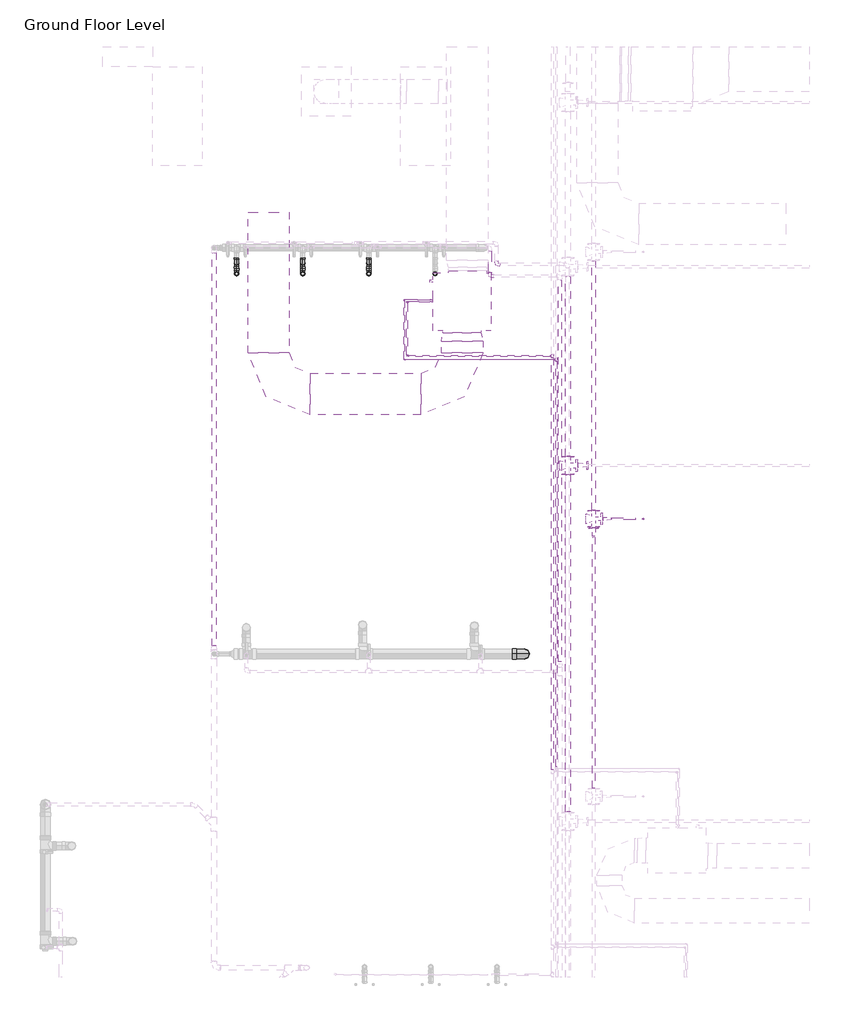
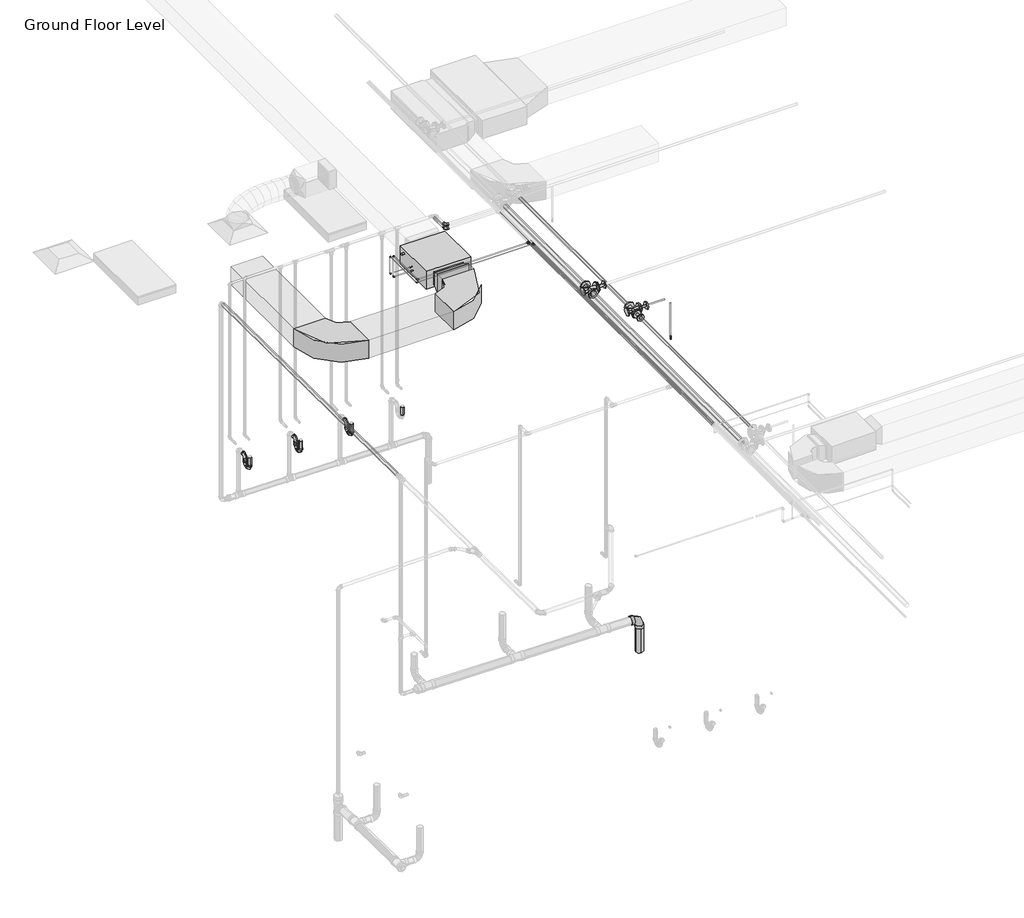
# One storey, part 21 of 74: 30 pipe segments, 27 pipe fittings, 3 duct fittings, 3 duct segments, 1 fire suppression terminal, 1 proxy.
"""IFC4 building model written with IfcOpenShell, lengths in millimetres."""

from ifc_helpers import new_model, si_unit, point, frame, frame_2d, origin, place, context, project, spatial, polyline, circle_curve, trimmed, segment, composite_curve, outline, extrude, transform, mapped, element, save
from components import fcu_daikin_iu_bad131e0, m_rectangular_elbow_radius_1_w_abe20169, m_rectangular_transition_angle_45_degree_f7c2916c, m_sprinkler_pendent_15_mm_pendent_06fcbd8e, m_bend_pvc_sch_40_dwv_standard_b7b4a97e, m_bend_pvc_sch_40_dwv_standard_1e7bdcc1, m_bend_pvc_sch_40_dwv_standard_776e50c4, m_elbow_generic_standard_a088f956, m_elbow_generic_standard_2a704253, m_reducer_flanged_cs_class_150_standard_b6b67c23, m_reducer_flanged_cs_class_150_standard_cc2a7c1d, m_reducer_flanged_cs_class_150_standard_a7631c35, m_tee_generic_standard_5b2ed4d4, m_tee_generic_standard_5078887e, m_tee_round_base_flanged_cs_class_150_standard_dd767e04, m_tee_round_base_flanged_cs_class_150_standard_9c9133d0, m_transition_generic_standard_bdcfe2c1, m_transition_generic_standard_44e35838, standard_517a5a8d

model = new_model("IFC4")

# Units and contexts
model_context = context("Model", 3, world=origin())
ifc_project = project(units=[si_unit("LENGTHUNIT", "METRE", prefix="MILLI")], contexts=[model_context])

# Site, building, storey
site = spatial("IfcSite", under=ifc_project)
building = spatial("IfcBuilding", under=site)
storey = spatial("IfcBuildingStorey", under=building, Name="Ground Floor Level", Elevation=900.0)

# Proxy
placement = place(None, origin())
fcu_daikin_iu_shape = fcu_daikin_iu_bad131e0(model_context)
element("IfcBuildingElementProxy", 1, Name="FCU-DAIKIN IU : 4.5kW, 230V/50Hz/1Ph", ObjectType="FCU-DAIKIN IU : 4.5kW, 230V/50Hz/1Ph", at=placement, inside=storey, context=model_context, shape_type="MappedRepresentation", body=[
    mapped(fcu_daikin_iu_shape, transform((4405.6581832, -24507.2627051, 3934.1054453), x_axis=(-1.0, 0.0, 0.0), y_axis=(0.0, -1.0, 0.0), z_axis=(0.0, 0.0, 1.0))),
])

# Duct fittings
m_rectangular_elbow_radius_1_w_shape = m_rectangular_elbow_radius_1_w_abe20169(model_context)
element("IfcDuctFitting", 2, ObjectType="M_Rectangular Elbow - Radius : 1 W", at=placement, inside=storey, context=model_context, shape_type="MappedRepresentation", body=[
    mapped(m_rectangular_elbow_radius_1_w_shape, transform((4405.6581832, -25622.6440715, 4075.3054453), x_axis=(1.0, 0.0, 0.0), y_axis=(0.0, 1.0, 0.0), z_axis=(0.0, 0.0, 1.0))),
])
element("IfcDuctFitting", 3, ObjectType="M_Rectangular Elbow - Radius : 1 W", at=placement, inside=storey, context=model_context, shape_type="MappedRepresentation", body=[
    mapped(m_rectangular_elbow_radius_1_w_shape, transform((2065.6581888, -25622.6440715, 4075.2875), x_axis=(0.0, -1.0, 0.0), y_axis=(1.0, 0.0, 0.0), z_axis=(0.0, 0.0, 1.0))),
])
m_rectangular_transition_angle_45_degree_shape = m_rectangular_transition_angle_45_degree_f7c2916c(model_context)
element("IfcDuctFitting", 4, ObjectType="M_Rectangular Transition - Angle : 45 Degree", at=placement, inside=storey, context=model_context, shape_type="MappedRepresentation", body=[
    mapped(m_rectangular_transition_angle_45_degree_shape, transform((4405.6581832, -24882.6627051, 4075.3054453), x_axis=(0.0, -1.0, 0.0), y_axis=(1.0, 0.0, 0.0), z_axis=(0.0, 0.0, 1.0))),
])

# Duct segments
element("IfcDuctSegment", 5, ObjectType="Radius Elbows / Taps", at=placement, inside=storey, context=model_context, shape_type="SweptSolid", body=[
    extrude(outline(polyline([(4155.6581832, -24986.1117562), (4655.6581832, -24986.1117562), (4655.6581832, -25122.6440715), (4155.6581832, -25122.6440715), (4155.6581832, -24986.1117562)])), frame((0.0, 0.0, 3925.3054453), z_axis=(0.0, 0.0, 1.0), x_axis=(1.0, 0.0, 0.0)), (0.0, 0.0, 1.0), 300.0),
])
element("IfcDuctSegment", 6, ObjectType="Radius Elbows / Taps", at=placement, inside=storey, context=model_context, shape_type="SweptSolid", body=[
    extrude(outline(polyline([(0.0, -500.0), (0.0, 0.0), (1339.9999945, 0.0), (1339.9999945, -500.0), (0.0, -500.0)])), frame((3905.660192, -25872.6440715, 3925.3054453), z_axis=(-1.3392036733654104e-05, 0.0, 0.9999999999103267), x_axis=(-0.9999999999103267, 0.0, -1.3392036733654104e-05)), (0.0, 0.0, 1.0), 300.0),
])
element("IfcDuctSegment", 7, ObjectType="Radius Elbows / Taps", at=placement, inside=storey, context=model_context, shape_type="SweptSolid", body=[
    extrude(outline(polyline([(2315.6581888, -25122.6440715), (1815.6581888, -25122.6440715), (1815.6581888, -23422.6440715), (2315.6581888, -23422.6440715), (2315.6581888, -25122.6440715)])), frame((0.0, 0.0, 3925.2875), z_axis=(0.0, 0.0, 1.0), x_axis=(1.0, 0.0, 0.0)), (0.0, 0.0, 1.0), 300.0),
])

# Fire suppression terminal
m_sprinkler_pendent_15_mm_pendent_shape = m_sprinkler_pendent_15_mm_pendent_06fcbd8e(model_context)
element("IfcFireSuppressionTerminal", 8, ObjectType="M_Sprinkler - Pendent : 15 mm Pendent", at=placement, inside=storey, context=model_context, shape_type="MappedRepresentation", body=[
    mapped(m_sprinkler_pendent_15_mm_pendent_shape, transform((6592.5481019, -27129.3982359, 3650.0), x_axis=(1.0, 0.0, 0.0), y_axis=(0.0, 1.0, 0.0), z_axis=(0.0, 0.0, 1.0))),
])

# Pipe fittings
m_bend_pvc_sch_40_dwv_standard_shape = m_bend_pvc_sch_40_dwv_standard_b7b4a97e(model_context)
element("IfcPipeFitting", 9, ObjectType="M_Bend - PVC - Sch 40 - DWV : Standard", at=placement, inside=storey, context=model_context, shape_type="MappedRepresentation", body=[
    mapped(m_bend_pvc_sch_40_dwv_standard_shape, transform((5158.4803359, -28761.5689421, 448.4416158), x_axis=(0.9999500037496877, 0.0, -0.00999950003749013), y_axis=(-0.00999950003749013, 0.0, -0.9999500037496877), z_axis=(0.0, 1.0, 0.0))),
])
m_bend_pvc_sch_40_dwv_standard_2_shape = m_bend_pvc_sch_40_dwv_standard_1e7bdcc1(model_context)
element("IfcPipeFitting", 10, ObjectType="M_Bend - PVC - Sch 40 - DWV : Standard", at=placement, inside=storey, context=model_context, shape_type="MappedRepresentation", body=[
    mapped(m_bend_pvc_sch_40_dwv_standard_2_shape, transform((1679.14976, -24168.3528577, 1360.0000049), x_axis=(0.0, 0.0, -1.0), y_axis=(0.0, 1.0, 0.0), z_axis=(1.0, 0.0, 0.0))),
])
element("IfcPipeFitting", 11, ObjectType="M_Bend - PVC - Sch 40 - DWV : Standard", at=placement, inside=storey, context=model_context, shape_type="MappedRepresentation", body=[
    mapped(m_bend_pvc_sch_40_dwv_standard_2_shape, transform((2479.14976, -24168.3528577, 1360.00001), x_axis=(0.0, -0.9999500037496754, 0.009999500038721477), y_axis=(0.0, 0.009999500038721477, 0.9999500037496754), z_axis=(-1.0, 0.0, 0.0))),
])
element("IfcPipeFitting", 12, ObjectType="M_Bend - PVC - Sch 40 - DWV : Standard", at=placement, inside=storey, context=model_context, shape_type="MappedRepresentation", body=[
    mapped(m_bend_pvc_sch_40_dwv_standard_2_shape, transform((3279.14976, -24168.3528577, 1360.0000049), x_axis=(0.0, -0.9999500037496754, 0.009999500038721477), y_axis=(0.0, 0.009999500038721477, 0.9999500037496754), z_axis=(-1.0, 0.0, 0.0))),
])
m_bend_pvc_sch_40_dwv_standard_3_shape = m_bend_pvc_sch_40_dwv_standard_776e50c4(model_context)
element("IfcPipeFitting", 13, ObjectType="M_Bend - PVC - Sch 40 - DWV : Standard", at=placement, inside=storey, context=model_context, shape_type="MappedRepresentation", body=[
    mapped(m_bend_pvc_sch_40_dwv_standard_3_shape, transform((1679.14976, -24038.3523645, 1358.7), x_axis=(0.0, 0.9999500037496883, -0.009999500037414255), y_axis=(0.0, 0.009999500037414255, 0.9999500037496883), z_axis=(1.0, 0.0, 0.0))),
])
element("IfcPipeFitting", 14, ObjectType="M_Bend - PVC - Sch 40 - DWV : Standard", at=placement, inside=storey, context=model_context, shape_type="MappedRepresentation", body=[
    mapped(m_bend_pvc_sch_40_dwv_standard_3_shape, transform((1679.14976, -24038.3523645, 1510.0493267), x_axis=(0.0, 0.0, 1.0), y_axis=(0.0, 1.0, 0.0), z_axis=(-1.0, 0.0, 0.0))),
])
element("IfcPipeFitting", 15, ObjectType="M_Bend - PVC - Sch 40 - DWV : Standard", at=placement, inside=storey, context=model_context, shape_type="MappedRepresentation", body=[
    mapped(m_bend_pvc_sch_40_dwv_standard_3_shape, transform((2479.14976, -24038.3518579, 1358.7), x_axis=(0.0, 0.9999500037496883, -0.009999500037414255), y_axis=(0.0, 0.009999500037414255, 0.9999500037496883), z_axis=(1.0, 0.0, 0.0))),
])
element("IfcPipeFitting", 16, ObjectType="M_Bend - PVC - Sch 40 - DWV : Standard", at=placement, inside=storey, context=model_context, shape_type="MappedRepresentation", body=[
    mapped(m_bend_pvc_sch_40_dwv_standard_3_shape, transform((2479.14976, -24038.3518579, 1510.09999), x_axis=(0.0, 0.0, 1.0), y_axis=(0.0, 1.0, 0.0), z_axis=(-1.0, 0.0, 0.0))),
])
element("IfcPipeFitting", 17, ObjectType="M_Bend - PVC - Sch 40 - DWV : Standard", at=placement, inside=storey, context=model_context, shape_type="MappedRepresentation", body=[
    mapped(m_bend_pvc_sch_40_dwv_standard_3_shape, transform((3279.14976, -24038.3523645, 1358.7), x_axis=(0.0, 0.9999500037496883, -0.009999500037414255), y_axis=(0.0, 0.009999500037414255, 0.9999500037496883), z_axis=(1.0, 0.0, 0.0))),
])
element("IfcPipeFitting", 18, ObjectType="M_Bend - PVC - Sch 40 - DWV : Standard", at=placement, inside=storey, context=model_context, shape_type="MappedRepresentation", body=[
    mapped(m_bend_pvc_sch_40_dwv_standard_3_shape, transform((3279.14976, -24038.3523645, 1510.0493267), x_axis=(0.0, 0.0, 1.0), y_axis=(0.0, 1.0, 0.0), z_axis=(-1.0, 0.0, 0.0))),
])
m_elbow_generic_standard_shape = m_elbow_generic_standard_a088f956(model_context)
element("IfcPipeFitting", 19, ObjectType="M_Elbow - Generic : Standard", at=placement, inside=storey, context=model_context, shape_type="MappedRepresentation", body=[
    mapped(m_elbow_generic_standard_shape, transform((3741.7995393, -24507.2440715, 4034.0875), x_axis=(-1.0, 0.0, 0.0), y_axis=(0.0, 0.0, 1.0), z_axis=(0.0, 1.0, 0.0))),
])
element("IfcPipeFitting", 20, ObjectType="M_Elbow - Generic : Standard", at=placement, inside=storey, context=model_context, shape_type="MappedRepresentation", body=[
    mapped(m_elbow_generic_standard_shape, transform((3741.7995393, -24507.2440715, 4390.0), x_axis=(0.0, 0.0, 1.0), y_axis=(0.0, -1.0, 0.0), z_axis=(1.0, 0.0, 0.0))),
])
element("IfcPipeFitting", 21, ObjectType="M_Elbow - Generic : Standard", at=placement, inside=storey, context=model_context, shape_type="MappedRepresentation", body=[
    mapped(m_elbow_generic_standard_shape, transform((3741.7995393, -25162.0896488, 4390.0), x_axis=(0.0, -1.0, 0.0), y_axis=(1.0, 0.0, 0.0), z_axis=(0.0, 0.0, 1.0))),
])
m_elbow_generic_standard_2_shape = m_elbow_generic_standard_2a704253(model_context)
element("IfcPipeFitting", 22, ObjectType="M_Elbow - Generic : Standard", at=placement, inside=storey, context=model_context, shape_type="MappedRepresentation", body=[
    mapped(m_elbow_generic_standard_2_shape, transform((3705.4496688, -24482.2440715, 4084.8875), x_axis=(-1.0, 0.0, 0.0), y_axis=(0.0, 0.0, 1.0), z_axis=(0.0, 1.0, 0.0))),
])
element("IfcPipeFitting", 23, ObjectType="M_Elbow - Generic : Standard", at=placement, inside=storey, context=model_context, shape_type="MappedRepresentation", body=[
    mapped(m_elbow_generic_standard_2_shape, transform((3705.4496688, -24482.2440715, 4377.5), x_axis=(0.0, 0.0, 1.0), y_axis=(0.0, -1.0, 0.0), z_axis=(1.0, 0.0, 0.0))),
])
element("IfcPipeFitting", 24, ObjectType="M_Elbow - Generic : Standard", at=placement, inside=storey, context=model_context, shape_type="MappedRepresentation", body=[
    mapped(m_elbow_generic_standard_2_shape, transform((3705.4496688, -25206.4899508, 4377.5), x_axis=(0.0, -1.0, 0.0), y_axis=(1.0, 0.0, 0.0), z_axis=(0.0, 0.0, 1.0))),
])
m_reducer_flanged_cs_class_150_standard_shape = m_reducer_flanged_cs_class_150_standard_b6b67c23(model_context)
element("IfcPipeFitting", 25, ObjectType="M_Reducer - Flanged - CS - Class 150 : Standard", at=placement, inside=storey, context=model_context, shape_type="MappedRepresentation", body=[
    mapped(m_reducer_flanged_cs_class_150_standard_shape, transform((5997.057812, -27235.4968297, 4290.0), x_axis=(0.0, -1.0, 0.0), y_axis=(1.0, 0.0, 0.0), z_axis=(0.0, 0.0, 1.0))),
])
m_reducer_flanged_cs_class_150_standard_2_shape = m_reducer_flanged_cs_class_150_standard_cc2a7c1d(model_context)
element("IfcPipeFitting", 26, ObjectType="M_Reducer - Flanged - CS - Class 150 : Standard", at=placement, inside=storey, context=model_context, shape_type="MappedRepresentation", body=[
    mapped(m_reducer_flanged_cs_class_150_standard_2_shape, transform((6103.1564057, -27129.3982359, 4290.0), x_axis=(1.0, 0.0, 0.0), y_axis=(0.0, 0.0, -1.0), z_axis=(0.0, 1.0, 0.0))),
])
m_reducer_flanged_cs_class_150_standard_3_shape = m_reducer_flanged_cs_class_150_standard_a7631c35(model_context)
element("IfcPipeFitting", 27, ObjectType="M_Reducer - Flanged - CS - Class 150 : Standard", at=placement, inside=storey, context=model_context, shape_type="MappedRepresentation", body=[
    mapped(m_reducer_flanged_cs_class_150_standard_3_shape, transform((5798.6174894, -26484.6295433, 4347.5), x_axis=(1.0, 0.0, 0.0), y_axis=(0.0, 0.0, 1.0), z_axis=(0.0, -1.0, 0.0))),
])
m_tee_generic_standard_shape = m_tee_generic_standard_5b2ed4d4(model_context)
element("IfcPipeFitting", 28, ObjectType="M_Tee - Generic : Standard", at=placement, inside=storey, context=model_context, shape_type="MappedRepresentation", body=[
    mapped(m_tee_generic_standard_shape, transform((5543.9904113, -25206.4899508, 4377.5), x_axis=(0.0, -1.0, 0.0), y_axis=(1.0, 0.0, 0.0), z_axis=(0.0, 0.0, 1.0))),
])
m_tee_generic_standard_2_shape = m_tee_generic_standard_5078887e(model_context)
element("IfcPipeFitting", 29, ObjectType="M_Tee - Generic : Standard", at=placement, inside=storey, context=model_context, shape_type="MappedRepresentation", body=[
    mapped(m_tee_generic_standard_2_shape, transform((5497.8951827, -25162.0896488, 4390.0), x_axis=(0.0, -1.0, 0.0), y_axis=(1.0, 0.0, 0.0), z_axis=(0.0, 0.0, 1.0))),
])
m_tee_round_base_flanged_cs_class_150_standard_shape = m_tee_round_base_flanged_cs_class_150_standard_dd767e04(model_context)
element("IfcPipeFitting", 30, ObjectType="M_Tee Round Base - Flanged - CS - Class 150 : Standard", at=placement, inside=storey, context=model_context, shape_type="MappedRepresentation", body=[
    mapped(m_tee_round_base_flanged_cs_class_150_standard_shape, transform((5684.6174894, -26484.6295433, 4347.5), x_axis=(0.0, -1.0, 0.0), y_axis=(-1.0, 0.0, 0.0), z_axis=(0.0, 0.0, -1.0))),
])
m_tee_round_base_flanged_cs_class_150_standard_2_shape = m_tee_round_base_flanged_cs_class_150_standard_9c9133d0(model_context)
element("IfcPipeFitting", 31, ObjectType="M_Tee Round Base - Flanged - CS - Class 150 : Standard", at=placement, inside=storey, context=model_context, shape_type="MappedRepresentation", body=[
    mapped(m_tee_round_base_flanged_cs_class_150_standard_2_shape, transform((5997.057812, -27129.3982359, 4290.0), x_axis=(0.0, 1.0, 0.0), y_axis=(-1.0, 0.0, 0.0), z_axis=(0.0, 0.0, 1.0))),
])
m_transition_generic_standard_shape = m_transition_generic_standard_bdcfe2c1(model_context)
element("IfcPipeFitting", 32, ObjectType="M_Transition - Generic : Standard", at=placement, inside=storey, context=model_context, shape_type="MappedRepresentation", body=[
    mapped(m_transition_generic_standard_shape, transform((5523.3529113, -25206.4899508, 4377.5), x_axis=(-1.0, 0.0, 0.0), y_axis=(0.0, -1.0, 0.0), z_axis=(0.0, 0.0, 1.0))),
])
m_transition_generic_standard_2_shape = m_transition_generic_standard_44e35838(model_context)
element("IfcPipeFitting", 33, ObjectType="M_Transition - Generic : Standard", at=placement, inside=storey, context=model_context, shape_type="MappedRepresentation", body=[
    mapped(m_transition_generic_standard_2_shape, transform((5474.0826827, -25162.0896488, 4390.0), x_axis=(-1.0, 0.0, 0.0), y_axis=(0.0, -1.0, 0.0), z_axis=(0.0, 0.0, 1.0))),
])
standard_shape = standard_517a5a8d(model_context)
element("IfcPipeFitting", 34, ObjectType="M_Elbow - CPVC - Sch 40 : Standard", at=placement, inside=storey, context=model_context, shape_type="MappedRepresentation", body=[
    mapped(standard_shape, transform((4743.0647206, -24195.7825432, 4300.0), x_axis=(0.0, -1.0, 0.0), y_axis=(1.0, 0.0, 0.0), z_axis=(0.0, 0.0, 1.0))),
])
element("IfcPipeFitting", 35, ObjectType="M_Elbow - CPVC - Sch 40 : Standard", at=placement, inside=storey, context=model_context, shape_type="MappedRepresentation", body=[
    mapped(standard_shape, transform((4820.5575802, -24054.921633, 4250.0), x_axis=(0.0, -1.0, 0.0), y_axis=(1.0, 0.0, 0.0), z_axis=(0.0, 0.0, 1.0))),
])

# Pipe segments
element("IfcPipeSegment", 36, ObjectType="CPVC", at=placement, inside=storey, context=model_context, shape_type="SweptSolid", body=[
    extrude(outline(composite_curve([segment(trimmed(circle_curve(frame_2d((4300.0, 4743.0647206)), 16.7005), [point((4300.0, 4726.3642206))], [point((4283.2995, 4743.0647206))], False, "CARTESIAN"), True, "CONTINUOUS"), segment(trimmed(circle_curve(frame_2d((4300.0, 4743.0647206)), 16.7005), [point((4283.2995, 4743.0647206))], [point((4300.0, 4759.7652206))], False, "CARTESIAN"), True, "CONTINUOUS"), segment(trimmed(circle_curve(frame_2d((4300.0, 4743.0647206)), 16.7005), [point((4300.0, 4759.7652206))], [point((4316.7005, 4743.0647206))], False, "CARTESIAN"), True, "CONTINUOUS"), segment(trimmed(circle_curve(frame_2d((4300.0, 4743.0647206)), 16.7005), [point((4316.7005, 4743.0647206))], [point((4300.0, 4726.3642206))], False, "CARTESIAN"), True, "CONTINUOUS")], self_intersect=False)), frame((0.0, -24152.5199932, 0.0), z_axis=(0.0, 1.0, 0.0), x_axis=(0.0, 0.0, 1.0)), (0.0, 0.0, 1.0), 264.4727966),
])
element("IfcPipeSegment", 37, ObjectType="CPVC", at=placement, inside=storey, context=model_context, shape_type="SweptSolid", body=[
    extrude(outline(composite_curve([segment(trimmed(circle_curve(frame_2d((4300.0, 5589.646628)), 16.7005), [point((4300.0, 5572.946128))], [point((4283.2995, 5589.646628))], False, "CARTESIAN"), True, "CONTINUOUS"), segment(trimmed(circle_curve(frame_2d((4300.0, 5589.646628)), 16.7005), [point((4283.2995, 5589.646628))], [point((4300.0, 5606.347128))], False, "CARTESIAN"), True, "CONTINUOUS"), segment(trimmed(circle_curve(frame_2d((4300.0, 5589.646628)), 16.7005), [point((4300.0, 5606.347128))], [point((4316.7005, 5589.646628))], False, "CARTESIAN"), True, "CONTINUOUS"), segment(trimmed(circle_curve(frame_2d((4300.0, 5589.646628)), 16.7005), [point((4316.7005, 5589.646628))], [point((4300.0, 5572.946128))], False, "CARTESIAN"), True, "CONTINUOUS")], self_intersect=False)), frame((0.0, -28854.6907716, 0.0), z_axis=(0.0, 1.0, 0.0), x_axis=(0.0, 0.0, 1.0)), (0.0, 0.0, 1.0), 4615.6456784),
])
element("IfcPipeSegment", 38, ObjectType="Copper", at=placement, inside=storey, context=model_context, shape_type="SweptSolid", body=[
    extrude(outline(composite_curve([segment(trimmed(circle_curve(frame_2d((-25206.4899508, 4377.5)), 3.35), [point((-25209.8399508, 4377.5))], [point((-25206.4899508, 4380.85))], False, "CARTESIAN"), True, "CONTINUOUS"), segment(trimmed(circle_curve(frame_2d((-25206.4899508, 4377.5)), 3.35), [point((-25206.4899508, 4380.85))], [point((-25203.1399508, 4377.5))], False, "CARTESIAN"), True, "CONTINUOUS"), segment(trimmed(circle_curve(frame_2d((-25206.4899508, 4377.5)), 3.35), [point((-25203.1399508, 4377.5))], [point((-25206.4899508, 4374.15))], False, "CARTESIAN"), True, "CONTINUOUS"), segment(trimmed(circle_curve(frame_2d((-25206.4899508, 4377.5)), 3.35), [point((-25206.4899508, 4374.15))], [point((-25209.8399508, 4377.5))], False, "CARTESIAN"), True, "CONTINUOUS")], self_intersect=False)), frame((3716.5871688, 0.0, 0.0), z_axis=(1.0, 0.0, 0.0), x_axis=(0.0, 1.0, 0.0)), (0.0, 0.0, 1.0), 1802.7969926),
])
element("IfcPipeSegment", 39, ObjectType="Copper", at=placement, inside=storey, context=model_context, shape_type="SweptSolid", body=[
    extrude(outline(composite_curve([segment(trimmed(circle_curve(frame_2d((-25162.0896488, 4390.0)), 6.5), [point((-25168.5896488, 4390.0))], [point((-25162.0896488, 4396.5))], False, "CARTESIAN"), True, "CONTINUOUS"), segment(trimmed(circle_curve(frame_2d((-25162.0896488, 4390.0)), 6.5), [point((-25162.0896488, 4396.5))], [point((-25155.5896488, 4390.0))], False, "CARTESIAN"), True, "CONTINUOUS"), segment(trimmed(circle_curve(frame_2d((-25162.0896488, 4390.0)), 6.5), [point((-25155.5896488, 4390.0))], [point((-25162.0896488, 4383.5))], False, "CARTESIAN"), True, "CONTINUOUS"), segment(trimmed(circle_curve(frame_2d((-25162.0896488, 4390.0)), 6.5), [point((-25162.0896488, 4383.5))], [point((-25168.5896488, 4390.0))], False, "CARTESIAN"), True, "CONTINUOUS")], self_intersect=False)), frame((3756.0870393, 0.0, 0.0), z_axis=(1.0, 0.0, 0.0), x_axis=(0.0, 1.0, 0.0)), (0.0, 0.0, 1.0), 1712.4393933),
])
element("IfcPipeSegment", 40, ObjectType="Copper", at=placement, inside=storey, context=model_context, shape_type="SweptSolid", body=[
    extrude(outline(composite_curve([segment(trimmed(circle_curve(frame_2d((4377.5, 3705.4496688)), 3.35), [point((4377.5, 3702.0996688))], [point((4374.15, 3705.4496688))], False, "CARTESIAN"), True, "CONTINUOUS"), segment(trimmed(circle_curve(frame_2d((4377.5, 3705.4496688)), 3.35), [point((4374.15, 3705.4496688))], [point((4377.5, 3708.7996688))], False, "CARTESIAN"), True, "CONTINUOUS"), segment(trimmed(circle_curve(frame_2d((4377.5, 3705.4496688)), 3.35), [point((4377.5, 3708.7996688))], [point((4380.85, 3705.4496688))], False, "CARTESIAN"), True, "CONTINUOUS"), segment(trimmed(circle_curve(frame_2d((4377.5, 3705.4496688)), 3.35), [point((4380.85, 3705.4496688))], [point((4377.5, 3702.0996688))], False, "CARTESIAN"), True, "CONTINUOUS")], self_intersect=False)), frame((0.0, -25195.3524508, 0.0), z_axis=(0.0, 1.0, 0.0), x_axis=(0.0, 0.0, 1.0)), (0.0, 0.0, 1.0), 701.9708793),
])
element("IfcPipeSegment", 41, ObjectType="Copper", at=placement, inside=storey, context=model_context, shape_type="SweptSolid", body=[
    extrude(outline(composite_curve([segment(trimmed(circle_curve(frame_2d((4390.0, 3741.7995393)), 6.5), [point((4390.0, 3735.2995393))], [point((4383.5, 3741.7995393))], False, "CARTESIAN"), True, "CONTINUOUS"), segment(trimmed(circle_curve(frame_2d((4390.0, 3741.7995393)), 6.5), [point((4383.5, 3741.7995393))], [point((4390.0, 3748.2995393))], False, "CARTESIAN"), True, "CONTINUOUS"), segment(trimmed(circle_curve(frame_2d((4390.0, 3741.7995393)), 6.5), [point((4390.0, 3748.2995393))], [point((4396.5, 3741.7995393))], False, "CARTESIAN"), True, "CONTINUOUS"), segment(trimmed(circle_curve(frame_2d((4390.0, 3741.7995393)), 6.5), [point((4396.5, 3741.7995393))], [point((4390.0, 3735.2995393))], False, "CARTESIAN"), True, "CONTINUOUS")], self_intersect=False)), frame((0.0, -25147.8021488, 0.0), z_axis=(0.0, 1.0, 0.0), x_axis=(0.0, 0.0, 1.0)), (0.0, 0.0, 1.0), 626.2705772),
])
element("IfcPipeSegment", 42, ObjectType="Copper", at=placement, inside=storey, context=model_context, shape_type="SweptSolid", body=[
    extrude(outline(composite_curve([segment(trimmed(circle_curve(frame_2d((0.0, -6.5)), 6.5), [point((-6.5, -6.5))], [point((1e-07, 0.0))], False, "CARTESIAN"), True, "CONTINUOUS"), segment(trimmed(circle_curve(frame_2d((0.0, -6.5)), 6.5), [point((1e-07, 0.0))], [point((6.5, -6.5))], False, "CARTESIAN"), True, "CONTINUOUS"), segment(trimmed(circle_curve(frame_2d((0.0, -6.5)), 6.5), [point((6.5, -6.5))], [point((0.0, -13.0))], False, "CARTESIAN"), True, "CONTINUOUS"), segment(trimmed(circle_curve(frame_2d((0.0, -6.5)), 6.5), [point((0.0, -13.0))], [point((-6.5, -6.5))], False, "CARTESIAN"), True, "CONTINUOUS")], self_intersect=False)), frame((3756.0874855, -24507.2440715, 4027.5875), z_axis=(0.9999999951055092, -7.12643563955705e-05, 6.86321587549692e-05), x_axis=(-7.126435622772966e-05, -0.9999999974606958, -4.891026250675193e-09)), (0.0, 0.0, 1.0), 261.4711452),
])
element("IfcPipeSegment", 43, ObjectType="Copper", at=placement, inside=storey, context=model_context, shape_type="SweptSolid", body=[
    extrude(outline(composite_curve([segment(trimmed(circle_curve(frame_2d((0.0, -3.35)), 3.35), [point((-3.35, -3.35))], [point((0.0, 0.0))], False, "CARTESIAN"), True, "CONTINUOUS"), segment(trimmed(circle_curve(frame_2d((0.0, -3.35)), 3.35), [point((0.0, 0.0))], [point((3.35, -3.35))], False, "CARTESIAN"), True, "CONTINUOUS"), segment(trimmed(circle_curve(frame_2d((0.0, -3.35)), 3.35), [point((3.35, -3.35))], [point((0.0, -6.7))], False, "CARTESIAN"), True, "CONTINUOUS"), segment(trimmed(circle_curve(frame_2d((0.0, -3.35)), 3.35), [point((0.0, -6.7))], [point((-3.35, -3.35))], False, "CARTESIAN"), True, "CONTINUOUS")], self_intersect=False)), frame((3716.5873685, -24482.2440715, 4081.5375), z_axis=(0.9999999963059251, -6.191151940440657e-05, 5.962477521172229e-05), x_axis=(-6.191151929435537e-05, -0.999999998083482, -3.691459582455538e-09)), (0.0, 0.0, 1.0), 300.9710156),
])
element("IfcPipeSegment", 44, ObjectType="Copper", at=placement, inside=storey, context=model_context, shape_type="SweptSolid", body=[
    extrude(outline(composite_curve([segment(trimmed(circle_curve(frame_2d((3705.4496688, -24482.2440715)), 3.35), [point((3702.0996688, -24482.2440715))], [point((3705.4496688, -24478.8940715))], False, "CARTESIAN"), True, "CONTINUOUS"), segment(trimmed(circle_curve(frame_2d((3705.4496688, -24482.2440715)), 3.35), [point((3705.4496688, -24478.8940715))], [point((3708.7996688, -24482.2440715))], False, "CARTESIAN"), True, "CONTINUOUS"), segment(trimmed(circle_curve(frame_2d((3705.4496688, -24482.2440715)), 3.35), [point((3708.7996688, -24482.2440715))], [point((3705.4496688, -24485.5940715))], False, "CARTESIAN"), True, "CONTINUOUS"), segment(trimmed(circle_curve(frame_2d((3705.4496688, -24482.2440715)), 3.35), [point((3705.4496688, -24485.5940715))], [point((3702.0996688, -24482.2440715))], False, "CARTESIAN"), True, "CONTINUOUS")], self_intersect=False)), frame((0.0, 0.0, 4096.025), z_axis=(0.0, 0.0, 1.0), x_axis=(1.0, 0.0, 0.0)), (0.0, 0.0, 1.0), 270.3375),
])
element("IfcPipeSegment", 45, ObjectType="Copper", at=placement, inside=storey, context=model_context, shape_type="SweptSolid", body=[
    extrude(outline(composite_curve([segment(trimmed(circle_curve(frame_2d((3741.7995393, -24507.2440715)), 6.5), [point((3735.2995393, -24507.2440715))], [point((3741.7995393, -24500.7440715))], False, "CARTESIAN"), True, "CONTINUOUS"), segment(trimmed(circle_curve(frame_2d((3741.7995393, -24507.2440715)), 6.5), [point((3741.7995393, -24500.7440715))], [point((3748.2995393, -24507.2440715))], False, "CARTESIAN"), True, "CONTINUOUS"), segment(trimmed(circle_curve(frame_2d((3741.7995393, -24507.2440715)), 6.5), [point((3748.2995393, -24507.2440715))], [point((3741.7995393, -24513.7440715))], False, "CARTESIAN"), True, "CONTINUOUS"), segment(trimmed(circle_curve(frame_2d((3741.7995393, -24507.2440715)), 6.5), [point((3741.7995393, -24513.7440715))], [point((3735.2995393, -24507.2440715))], False, "CARTESIAN"), True, "CONTINUOUS")], self_intersect=False)), frame((0.0, 0.0, 4048.375), z_axis=(0.0, 0.0, 1.0), x_axis=(1.0, 0.0, 0.0)), (0.0, 0.0, 1.0), 327.3375),
])
element("IfcPipeSegment", 46, ObjectType="Copper", at=placement, inside=storey, context=model_context, shape_type="SweptSolid", body=[
    extrude(outline(composite_curve([segment(trimmed(circle_curve(frame_2d((4377.5, 5543.9904113)), 6.5), [point((4377.5, 5550.4904113))], [point((4384.0, 5543.9904113))], False, "CARTESIAN"), True, "CONTINUOUS"), segment(trimmed(circle_curve(frame_2d((4377.5, 5543.9904113)), 6.5), [point((4384.0, 5543.9904113))], [point((4377.5, 5537.4904113))], False, "CARTESIAN"), True, "CONTINUOUS"), segment(trimmed(circle_curve(frame_2d((4377.5, 5543.9904113)), 6.5), [point((4377.5, 5537.4904113))], [point((4371.0, 5543.9904113))], False, "CARTESIAN"), True, "CONTINUOUS"), segment(trimmed(circle_curve(frame_2d((4377.5, 5543.9904113)), 6.5), [point((4371.0, 5543.9904113))], [point((4377.5, 5550.4904113))], False, "CARTESIAN"), True, "CONTINUOUS")], self_intersect=False)), frame((0.0, -30124.2941538, 0.0), z_axis=(0.0, 1.0, 0.0), x_axis=(0.0, 0.0, 1.0)), (0.0, 0.0, 1.0), 4897.166703),
])
element("IfcPipeSegment", 47, ObjectType="Copper", at=placement, inside=storey, context=model_context, shape_type="SweptSolid", body=[
    extrude(outline(composite_curve([segment(trimmed(circle_curve(frame_2d((4390.0, 5497.8951827)), 9.75), [point((4390.0, 5507.6451827))], [point((4399.75, 5497.8951827))], False, "CARTESIAN"), True, "CONTINUOUS"), segment(trimmed(circle_curve(frame_2d((4390.0, 5497.8951827)), 9.75), [point((4399.75, 5497.8951827))], [point((4390.0, 5488.1451827))], False, "CARTESIAN"), True, "CONTINUOUS"), segment(trimmed(circle_curve(frame_2d((4390.0, 5497.8951827)), 9.75), [point((4390.0, 5488.1451827))], [point((4380.25, 5497.8951827))], False, "CARTESIAN"), True, "CONTINUOUS"), segment(trimmed(circle_curve(frame_2d((4390.0, 5497.8951827)), 9.75), [point((4380.25, 5497.8951827))], [point((4390.0, 5507.6451827))], False, "CARTESIAN"), True, "CONTINUOUS")], self_intersect=False)), frame((0.0, -30163.6388653, 0.0), z_axis=(0.0, 1.0, 0.0), x_axis=(0.0, 0.0, 1.0)), (0.0, 0.0, 1.0), 4977.7367166),
])
element("IfcPipeSegment", 48, ObjectType="PVC - DWV", at=placement, inside=storey, context=model_context, shape_type="SweptSolid", body=[
    extrude(outline(composite_curve([segment(trimmed(circle_curve(frame_2d((1679.14976, -24168.3528577)), 24.13), [point((1703.27976, -24168.3528577))], [point((1679.14976, -24192.4828577))], False, "CARTESIAN"), True, "CONTINUOUS"), segment(trimmed(circle_curve(frame_2d((1679.14976, -24168.3528577)), 24.13), [point((1679.14976, -24192.4828577))], [point((1655.01976, -24168.3528577))], False, "CARTESIAN"), True, "CONTINUOUS"), segment(trimmed(circle_curve(frame_2d((1679.14976, -24168.3528577)), 24.13), [point((1655.01976, -24168.3528577))], [point((1679.14976, -24144.2228577))], False, "CARTESIAN"), True, "CONTINUOUS"), segment(trimmed(circle_curve(frame_2d((1679.14976, -24168.3528577)), 24.13), [point((1679.14976, -24144.2228577))], [point((1703.27976, -24168.3528577))], False, "CARTESIAN"), True, "CONTINUOUS")], self_intersect=False)), frame((0.0, 0.0, 1421.8998049), z_axis=(0.0, 0.0, 1.0), x_axis=(1.0, 0.0, 0.0)), (0.0, 0.0, 1.0), 128.1001951),
])
element("IfcPipeSegment", 49, ObjectType="PVC - DWV", at=placement, inside=storey, context=model_context, shape_type="SweptSolid", body=[
    extrude(outline(composite_curve([segment(trimmed(circle_curve(frame_2d((0.0, -24.1299999)), 24.13), [point((24.13, -24.1299999))], [point((0.0, -48.2599999))], False, "CARTESIAN"), True, "CONTINUOUS"), segment(trimmed(circle_curve(frame_2d((0.0, -24.1299999)), 24.13), [point((0.0, -48.2599999))], [point((-24.13, -24.1299999))], False, "CARTESIAN"), True, "CONTINUOUS"), segment(trimmed(circle_curve(frame_2d((0.0, -24.1299999)), 24.13), [point((-24.13, -24.1299999))], [point((0.0, 0.0))], False, "CARTESIAN"), True, "CONTINUOUS"), segment(trimmed(circle_curve(frame_2d((0.0, -24.1299999)), 24.13), [point((0.0, 0.0))], [point((24.13, -24.1299999))], False, "CARTESIAN"), True, "CONTINUOUS")], self_intersect=False)), frame((1679.14976, -24100.0077818, 1383.4477606), z_axis=(0.0, -0.9999500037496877, 0.009999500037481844), x_axis=(1.0, 0.0, 0.0)), (0.0, 0.0, 1.0), 6.2073931),
])
element("IfcPipeSegment", 50, ObjectType="PVC - DWV", at=placement, inside=storey, context=model_context, shape_type="SweptSolid", body=[
    extrude(outline(composite_curve([segment(trimmed(circle_curve(frame_2d((1679.14976, -24038.3523645)), 24.13), [point((1655.01976, -24038.3523645))], [point((1679.14976, -24014.2223645))], False, "CARTESIAN"), True, "CONTINUOUS"), segment(trimmed(circle_curve(frame_2d((1679.14976, -24038.3523645)), 24.13), [point((1679.14976, -24014.2223645))], [point((1703.27976, -24038.3523645))], False, "CARTESIAN"), True, "CONTINUOUS"), segment(trimmed(circle_curve(frame_2d((1679.14976, -24038.3523645)), 24.13), [point((1703.27976, -24038.3523645))], [point((1679.14976, -24062.4823645))], False, "CARTESIAN"), True, "CONTINUOUS"), segment(trimmed(circle_curve(frame_2d((1679.14976, -24038.3523645)), 24.13), [point((1679.14976, -24062.4823645))], [point((1655.01976, -24038.3523645))], False, "CARTESIAN"), True, "CONTINUOUS")], self_intersect=False)), frame((0.0, 0.0, 1420.5998), z_axis=(0.0, 0.0, 1.0), x_axis=(1.0, 0.0, 0.0)), (0.0, 0.0, 1.0), 27.5497267),
])
element("IfcPipeSegment", 51, ObjectType="PVC - DWV", at=placement, inside=storey, context=model_context, shape_type="SweptSolid", body=[
    extrude(outline(composite_curve([segment(trimmed(circle_curve(frame_2d((2479.14976, -24168.3528577)), 24.13), [point((2455.01976, -24168.3528577))], [point((2479.14976, -24144.2228577))], False, "CARTESIAN"), True, "CONTINUOUS"), segment(trimmed(circle_curve(frame_2d((2479.14976, -24168.3528577)), 24.13), [point((2479.14976, -24144.2228577))], [point((2503.27976, -24168.3528577))], False, "CARTESIAN"), True, "CONTINUOUS"), segment(trimmed(circle_curve(frame_2d((2479.14976, -24168.3528577)), 24.13), [point((2503.27976, -24168.3528577))], [point((2479.14976, -24192.4828577))], False, "CARTESIAN"), True, "CONTINUOUS"), segment(trimmed(circle_curve(frame_2d((2479.14976, -24168.3528577)), 24.13), [point((2479.14976, -24192.4828577))], [point((2455.01976, -24168.3528577))], False, "CARTESIAN"), True, "CONTINUOUS")], self_intersect=False)), frame((0.0, 0.0, 1421.89981), z_axis=(0.0, 0.0, 1.0), x_axis=(1.0, 0.0, 0.0)), (0.0, 0.0, 1.0), 128.10019),
])
element("IfcPipeSegment", 52, ObjectType="PVC - DWV", at=placement, inside=storey, context=model_context, shape_type="SweptSolid", body=[
    extrude(outline(composite_curve([segment(trimmed(circle_curve(frame_2d((0.0, -24.1299999)), 24.13), [point((24.13, -24.1299999))], [point((0.0, -48.2599999))], False, "CARTESIAN"), True, "CONTINUOUS"), segment(trimmed(circle_curve(frame_2d((0.0, -24.1299999)), 24.13), [point((0.0, -48.2599999))], [point((-24.13, -24.1299999))], False, "CARTESIAN"), True, "CONTINUOUS"), segment(trimmed(circle_curve(frame_2d((0.0, -24.1299999)), 24.13), [point((-24.13, -24.1299999))], [point((0.0, 0.0))], False, "CARTESIAN"), True, "CONTINUOUS"), segment(trimmed(circle_curve(frame_2d((0.0, -24.1299999)), 24.13), [point((0.0, 0.0))], [point((24.13, -24.1299999))], False, "CARTESIAN"), True, "CONTINUOUS")], self_intersect=False)), frame((2479.14976, -24100.0072752, 1383.4477606), z_axis=(0.0, -0.9999500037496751, 0.009999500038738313), x_axis=(1.0, 0.0, 0.0)), (0.0, 0.0, 1.0), 6.2078997),
])
element("IfcPipeSegment", 53, ObjectType="PVC - DWV", at=placement, inside=storey, context=model_context, shape_type="SweptSolid", body=[
    extrude(outline(composite_curve([segment(trimmed(circle_curve(frame_2d((2479.14976, -24038.3518579)), 24.13), [point((2455.01976, -24038.3518579))], [point((2479.14976, -24014.2218579))], False, "CARTESIAN"), True, "CONTINUOUS"), segment(trimmed(circle_curve(frame_2d((2479.14976, -24038.3518579)), 24.13), [point((2479.14976, -24014.2218579))], [point((2503.27976, -24038.3518579))], False, "CARTESIAN"), True, "CONTINUOUS"), segment(trimmed(circle_curve(frame_2d((2479.14976, -24038.3518579)), 24.13), [point((2503.27976, -24038.3518579))], [point((2479.14976, -24062.4818579))], False, "CARTESIAN"), True, "CONTINUOUS"), segment(trimmed(circle_curve(frame_2d((2479.14976, -24038.3518579)), 24.13), [point((2479.14976, -24062.4818579))], [point((2455.01976, -24038.3518579))], False, "CARTESIAN"), True, "CONTINUOUS")], self_intersect=False)), frame((0.0, 0.0, 1420.5998), z_axis=(0.0, 0.0, 1.0), x_axis=(1.0, 0.0, 0.0)), (0.0, 0.0, 1.0), 27.60039),
])
element("IfcPipeSegment", 54, ObjectType="PVC - DWV", at=placement, inside=storey, context=model_context, shape_type="SweptSolid", body=[
    extrude(outline(composite_curve([segment(trimmed(circle_curve(frame_2d((3279.14976, -24168.3528577)), 24.13), [point((3255.01976, -24168.3528577))], [point((3279.14976, -24144.2228577))], False, "CARTESIAN"), True, "CONTINUOUS"), segment(trimmed(circle_curve(frame_2d((3279.14976, -24168.3528577)), 24.13), [point((3279.14976, -24144.2228577))], [point((3303.27976, -24168.3528577))], False, "CARTESIAN"), True, "CONTINUOUS"), segment(trimmed(circle_curve(frame_2d((3279.14976, -24168.3528577)), 24.13), [point((3303.27976, -24168.3528577))], [point((3279.14976, -24192.4828577))], False, "CARTESIAN"), True, "CONTINUOUS"), segment(trimmed(circle_curve(frame_2d((3279.14976, -24168.3528577)), 24.13), [point((3279.14976, -24192.4828577))], [point((3255.01976, -24168.3528577))], False, "CARTESIAN"), True, "CONTINUOUS")], self_intersect=False)), frame((0.0, 0.0, 1421.8998049), z_axis=(0.0, 0.0, 1.0), x_axis=(1.0, 0.0, 0.0)), (0.0, 0.0, 1.0), 128.1001951),
])
element("IfcPipeSegment", 55, ObjectType="PVC - DWV", at=placement, inside=storey, context=model_context, shape_type="SweptSolid", body=[
    extrude(outline(composite_curve([segment(trimmed(circle_curve(frame_2d((0.0, -24.1299999)), 24.13), [point((24.13, -24.1299999))], [point((0.0, -48.2599999))], False, "CARTESIAN"), True, "CONTINUOUS"), segment(trimmed(circle_curve(frame_2d((0.0, -24.1299999)), 24.13), [point((0.0, -48.2599999))], [point((-24.13, -24.1299999))], False, "CARTESIAN"), True, "CONTINUOUS"), segment(trimmed(circle_curve(frame_2d((0.0, -24.1299999)), 24.13), [point((-24.13, -24.1299999))], [point((0.0, 0.0))], False, "CARTESIAN"), True, "CONTINUOUS"), segment(trimmed(circle_curve(frame_2d((0.0, -24.1299999)), 24.13), [point((0.0, 0.0))], [point((24.13, -24.1299999))], False, "CARTESIAN"), True, "CONTINUOUS")], self_intersect=False)), frame((3279.14976, -24100.0077818, 1383.4477606), z_axis=(0.0, -0.9999500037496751, 0.009999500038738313), x_axis=(1.0, 0.0, 0.0)), (0.0, 0.0, 1.0), 6.2073931),
])
element("IfcPipeSegment", 56, ObjectType="PVC - DWV", at=placement, inside=storey, context=model_context, shape_type="SweptSolid", body=[
    extrude(outline(composite_curve([segment(trimmed(circle_curve(frame_2d((3279.14976, -24038.3523645)), 24.13), [point((3255.01976, -24038.3523645))], [point((3279.14976, -24014.2223645))], False, "CARTESIAN"), True, "CONTINUOUS"), segment(trimmed(circle_curve(frame_2d((3279.14976, -24038.3523645)), 24.13), [point((3279.14976, -24014.2223645))], [point((3303.27976, -24038.3523645))], False, "CARTESIAN"), True, "CONTINUOUS"), segment(trimmed(circle_curve(frame_2d((3279.14976, -24038.3523645)), 24.13), [point((3303.27976, -24038.3523645))], [point((3279.14976, -24062.4823645))], False, "CARTESIAN"), True, "CONTINUOUS"), segment(trimmed(circle_curve(frame_2d((3279.14976, -24038.3523645)), 24.13), [point((3279.14976, -24062.4823645))], [point((3255.01976, -24038.3523645))], False, "CARTESIAN"), True, "CONTINUOUS")], self_intersect=False)), frame((0.0, 0.0, 1420.5998), z_axis=(0.0, 0.0, 1.0), x_axis=(1.0, 0.0, 0.0)), (0.0, 0.0, 1.0), 27.5497267),
])
element("IfcPipeSegment", 57, ObjectType="PVC - DWV", at=placement, inside=storey, context=model_context, shape_type="SweptSolid", body=[
    extrude(outline(composite_curve([segment(trimmed(circle_curve(frame_2d((4079.14976, -24168.3528577)), 24.13), [point((4055.01976, -24168.3528577))], [point((4079.14976, -24144.2228577))], False, "CARTESIAN"), True, "CONTINUOUS"), segment(trimmed(circle_curve(frame_2d((4079.14976, -24168.3528577)), 24.13), [point((4079.14976, -24144.2228577))], [point((4103.27976, -24168.3528577))], False, "CARTESIAN"), True, "CONTINUOUS"), segment(trimmed(circle_curve(frame_2d((4079.14976, -24168.3528577)), 24.13), [point((4103.27976, -24168.3528577))], [point((4079.14976, -24192.4828577))], False, "CARTESIAN"), True, "CONTINUOUS"), segment(trimmed(circle_curve(frame_2d((4079.14976, -24168.3528577)), 24.13), [point((4079.14976, -24192.4828577))], [point((4055.01976, -24168.3528577))], False, "CARTESIAN"), True, "CONTINUOUS")], self_intersect=False)), frame((0.0, 0.0, 1421.89981), z_axis=(0.0, 0.0, 1.0), x_axis=(1.0, 0.0, 0.0)), (0.0, 0.0, 1.0), 128.10019),
])
element("IfcPipeSegment", 58, ObjectType="PVC - DWV", at=placement, inside=storey, context=model_context, shape_type="SweptSolid", body=[
    extrude(outline(composite_curve([segment(trimmed(circle_curve(frame_2d((0.0, -57.15)), 57.15), [point((-57.15, -57.15))], [point((0.0, 0.0))], False, "CARTESIAN"), True, "CONTINUOUS"), segment(trimmed(circle_curve(frame_2d((0.0, -57.15)), 57.15), [point((0.0, 0.0))], [point((57.15, -57.15))], False, "CARTESIAN"), True, "CONTINUOUS"), segment(trimmed(circle_curve(frame_2d((0.0, -57.15)), 57.15), [point((57.15, -57.15))], [point((0.0, -114.3))], False, "CARTESIAN"), True, "CONTINUOUS"), segment(trimmed(circle_curve(frame_2d((0.0, -57.15)), 57.15), [point((0.0, -114.3))], [point((-57.15, -57.15))], False, "CARTESIAN"), True, "CONTINUOUS")], self_intersect=False)), frame((5158.4418398, -28818.7189421, -100.0), z_axis=(9.491942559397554e-05, 0.0, 0.9999999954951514), x_axis=(-0.9999999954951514, 0.0, 9.491942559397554e-05)), (0.0, 0.0, 1.0), 405.5666177),
])
element("IfcPipeSegment", 59, ObjectType="PVC - DWV", at=placement, inside=storey, context=model_context, shape_type="SweptSolid", body=[
    extrude(outline(composite_curve([segment(trimmed(circle_curve(frame_2d((0.0, 24.13)), 24.13), [point((-24.13, 24.13))], [point((0.0, 48.2599999))], False, "CARTESIAN"), True, "CONTINUOUS"), segment(trimmed(circle_curve(frame_2d((0.0, 24.13)), 24.13), [point((0.0, 48.2599999))], [point((24.13, 24.13))], False, "CARTESIAN"), True, "CONTINUOUS"), segment(trimmed(circle_curve(frame_2d((0.0, 24.13)), 24.13), [point((24.13, 24.13))], [point((0.0, 0.0))], False, "CARTESIAN"), True, "CONTINUOUS"), segment(trimmed(circle_curve(frame_2d((0.0, 24.13)), 24.13), [point((0.0, 0.0))], [point((-24.13, 24.13))], False, "CARTESIAN"), True, "CONTINUOUS")], self_intersect=False)), frame((1404.8829692, -23916.4515084, 4014.4188166), z_axis=(0.0, -0.9999500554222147, 0.009994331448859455), x_axis=(1.0, 0.0, 0.0)), (0.0, 0.0, 1.0), 4748.0987004),
])
element("IfcPipeSegment", 60, ObjectType="Steel flanged", at=placement, inside=storey, context=model_context, shape_type="SweptSolid", body=[
    extrude(outline(composite_curve([segment(trimmed(circle_curve(frame_2d((6592.5481019, -27129.3982359)), 10.668), [point((6581.8801019, -27129.3982359))], [point((6592.5481019, -27118.7302359))], False, "CARTESIAN"), True, "CONTINUOUS"), segment(trimmed(circle_curve(frame_2d((6592.5481019, -27129.3982359)), 10.668), [point((6592.5481019, -27118.7302359))], [point((6603.2161019, -27129.3982359))], False, "CARTESIAN"), True, "CONTINUOUS"), segment(trimmed(circle_curve(frame_2d((6592.5481019, -27129.3982359)), 10.668), [point((6603.2161019, -27129.3982359))], [point((6592.5481019, -27140.0662359))], False, "CARTESIAN"), True, "CONTINUOUS"), segment(trimmed(circle_curve(frame_2d((6592.5481019, -27129.3982359)), 10.668), [point((6592.5481019, -27140.0662359))], [point((6581.8801019, -27129.3982359))], False, "CARTESIAN"), True, "CONTINUOUS")], self_intersect=False)), frame((0.0, 0.0, 3650.0), z_axis=(0.0, 0.0, 1.0), x_axis=(1.0, 0.0, 0.0)), (0.0, 0.0, 1.0), 546.9914062),
])
element("IfcPipeSegment", 61, ObjectType="Steel flanged", at=placement, inside=storey, context=model_context, shape_type="SweptSolid", body=[
    extrude(outline(composite_curve([segment(trimmed(circle_curve(frame_2d((-27129.3982359, 4290.0)), 10.668), [point((-27118.7302359, 4290.0))], [point((-27129.3982359, 4279.332))], False, "CARTESIAN"), True, "CONTINUOUS"), segment(trimmed(circle_curve(frame_2d((-27129.3982359, 4290.0)), 10.668), [point((-27129.3982359, 4279.332))], [point((-27140.0662359, 4290.0))], False, "CARTESIAN"), True, "CONTINUOUS"), segment(trimmed(circle_curve(frame_2d((-27129.3982359, 4290.0)), 10.668), [point((-27140.0662359, 4290.0))], [point((-27129.3982359, 4300.668))], False, "CARTESIAN"), True, "CONTINUOUS"), segment(trimmed(circle_curve(frame_2d((-27129.3982359, 4290.0)), 10.668), [point((-27129.3982359, 4300.668))], [point((-27118.7302359, 4290.0))], False, "CARTESIAN"), True, "CONTINUOUS")], self_intersect=False)), frame((6217.1564057, 0.0, 0.0), z_axis=(1.0, 0.0, 0.0), x_axis=(0.0, 1.0, 0.0)), (0.0, 0.0, 1.0), 282.3831025),
])
element("IfcPipeSegment", 62, ObjectType="Steel flanged", at=placement, inside=storey, context=model_context, shape_type="SweptSolid", body=[
    extrude(outline(composite_curve([segment(trimmed(circle_curve(frame_2d((4290.0, 5997.057812)), 21.082), [point((4290.0, 5975.975812))], [point((4268.918, 5997.057812))], False, "CARTESIAN"), True, "CONTINUOUS"), segment(trimmed(circle_curve(frame_2d((4290.0, 5997.057812)), 21.082), [point((4268.918, 5997.057812))], [point((4290.0, 6018.139812))], False, "CARTESIAN"), True, "CONTINUOUS"), segment(trimmed(circle_curve(frame_2d((4290.0, 5997.057812)), 21.082), [point((4290.0, 6018.139812))], [point((4311.082, 5997.057812))], False, "CARTESIAN"), True, "CONTINUOUS"), segment(trimmed(circle_curve(frame_2d((4290.0, 5997.057812)), 21.082), [point((4311.082, 5997.057812))], [point((4290.0, 5975.975812))], False, "CARTESIAN"), True, "CONTINUOUS")], self_intersect=False)), frame((0.0, -27023.2996422, 0.0), z_axis=(0.0, 1.0, 0.0), x_axis=(0.0, 0.0, 1.0)), (0.0, 0.0, 1.0), 3013.5231135),
])
element("IfcPipeSegment", 63, ObjectType="Steel flanged", at=placement, inside=storey, context=model_context, shape_type="SweptSolid", body=[
    extrude(outline(composite_curve([segment(trimmed(circle_curve(frame_2d((4290.0, 5997.057812)), 16.7005), [point((4290.0, 5980.357312))], [point((4273.2995, 5997.057812))], False, "CARTESIAN"), True, "CONTINUOUS"), segment(trimmed(circle_curve(frame_2d((4290.0, 5997.057812)), 16.7005), [point((4273.2995, 5997.057812))], [point((4290.0, 6013.758312))], False, "CARTESIAN"), True, "CONTINUOUS"), segment(trimmed(circle_curve(frame_2d((4290.0, 5997.057812)), 16.7005), [point((4290.0, 6013.758312))], [point((4306.7005, 5997.057812))], False, "CARTESIAN"), True, "CONTINUOUS"), segment(trimmed(circle_curve(frame_2d((4290.0, 5997.057812)), 16.7005), [point((4306.7005, 5997.057812))], [point((4290.0, 5980.357312))], False, "CARTESIAN"), True, "CONTINUOUS")], self_intersect=False)), frame((0.0, -30382.3656461, 0.0), z_axis=(0.0, 1.0, 0.0), x_axis=(0.0, 0.0, 1.0)), (0.0, 0.0, 1.0), 3032.8688165),
])
element("IfcPipeSegment", 64, ObjectType="Steel flanged", at=placement, inside=storey, context=model_context, shape_type="SweptSolid", body=[
    extrude(outline(composite_curve([segment(trimmed(circle_curve(frame_2d((4347.5, 5684.6174894)), 30.1625), [point((4347.5, 5714.7799894))], [point((4377.6625, 5684.6174894))], False, "CARTESIAN"), True, "CONTINUOUS"), segment(trimmed(circle_curve(frame_2d((4347.5, 5684.6174894)), 30.1625), [point((4377.6625, 5684.6174894))], [point((4347.5, 5654.4549894))], False, "CARTESIAN"), True, "CONTINUOUS"), segment(trimmed(circle_curve(frame_2d((4347.5, 5684.6174894)), 30.1625), [point((4347.5, 5654.4549894))], [point((4317.3375, 5684.6174894))], False, "CARTESIAN"), True, "CONTINUOUS"), segment(trimmed(circle_curve(frame_2d((4347.5, 5684.6174894)), 30.1625), [point((4317.3375, 5684.6174894))], [point((4347.5, 5714.7799894))], False, "CARTESIAN"), True, "CONTINUOUS")], self_intersect=False)), frame((0.0, -30671.1783804, 0.0), z_axis=(0.0, 1.0, 0.0), x_axis=(0.0, 0.0, 1.0)), (0.0, 0.0, 1.0), 4072.5488372),
])
element("IfcPipeSegment", 65, ObjectType="Steel flanged", at=placement, inside=storey, context=model_context, shape_type="SweptSolid", body=[
    extrude(outline(composite_curve([segment(trimmed(circle_curve(frame_2d((4347.5, 5684.6174894)), 30.1625), [point((4347.5, 5714.7799894))], [point((4377.6625, 5684.6174894))], False, "CARTESIAN"), True, "CONTINUOUS"), segment(trimmed(circle_curve(frame_2d((4347.5, 5684.6174894)), 30.1625), [point((4377.6625, 5684.6174894))], [point((4347.5, 5654.4549894))], False, "CARTESIAN"), True, "CONTINUOUS"), segment(trimmed(circle_curve(frame_2d((4347.5, 5684.6174894)), 30.1625), [point((4347.5, 5654.4549894))], [point((4317.3375, 5684.6174894))], False, "CARTESIAN"), True, "CONTINUOUS"), segment(trimmed(circle_curve(frame_2d((4347.5, 5684.6174894)), 30.1625), [point((4317.3375, 5684.6174894))], [point((4347.5, 5714.7799894))], False, "CARTESIAN"), True, "CONTINUOUS")], self_intersect=False)), frame((0.0, -26370.6295433, 0.0), z_axis=(0.0, 1.0, 0.0), x_axis=(0.0, 0.0, 1.0)), (0.0, 0.0, 1.0), 2172.9516084),
])

save(model, "model.ifc")
